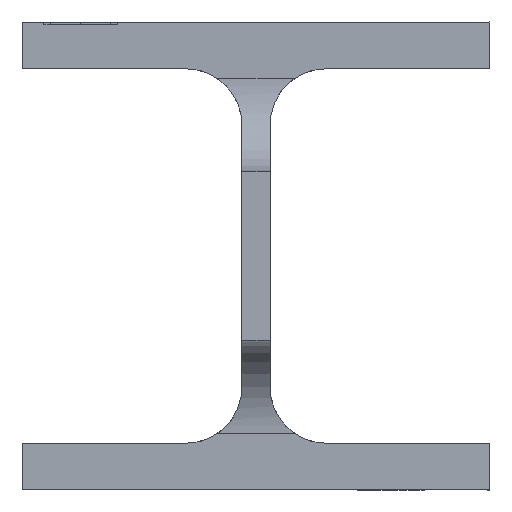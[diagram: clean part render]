
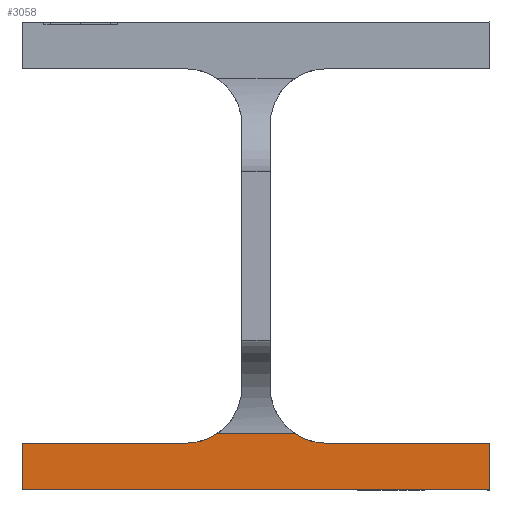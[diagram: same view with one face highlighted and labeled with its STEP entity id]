
A CAD part, left-side view. The second image highlights one B-rep face of the part: STEP entity #3058.
In plain terms, the highlighted planar face has unit normal (-1, 0, 0).
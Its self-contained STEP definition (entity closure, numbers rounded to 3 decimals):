
#80 = VERTEX_POINT ( 'NONE', #2623 ) ;
#127 = EDGE_CURVE ( 'NONE', #867, #2394, #690, .T. ) ;
#146 = ORIENTED_EDGE ( 'NONE', *, *, #890, .T. ) ;
#163 = ORIENTED_EDGE ( 'NONE', *, *, #1600, .T. ) ;
#252 = VECTOR ( 'NONE', #839, 1000. ) ;
#315 = VERTEX_POINT ( 'NONE', #2450 ) ;
#424 = ORIENTED_EDGE ( 'NONE', *, *, #2445, .T. ) ;
#447 = CARTESIAN_POINT ( 'NONE',  ( 6937., 1740., 2290. ) ) ;
#466 = ORIENTED_EDGE ( 'NONE', *, *, #1225, .T. ) ;
#614 = EDGE_CURVE ( 'NONE', #2905, #80, #1329, .T. ) ;
#690 = LINE ( 'NONE', #741, #3187 ) ;
#741 = CARTESIAN_POINT ( 'NONE',  ( 6937., 1740., 2300. ) ) ;
#743 = PLANE ( 'NONE',  #2261 ) ;
#839 = DIRECTION ( 'NONE',  ( 0., 1., 0. ) ) ;
#867 = VERTEX_POINT ( 'NONE', #2930 ) ;
#890 = EDGE_CURVE ( 'NONE', #2603, #867, #990, .T. ) ;
#990 = LINE ( 'NONE', #447, #2153 ) ;
#1017 = EDGE_CURVE ( 'NONE', #315, #2905, #2325, .T. ) ;
#1026 = DIRECTION ( 'NONE',  ( 0., 0., 1. ) ) ;
#1055 = ORIENTED_EDGE ( 'NONE', *, *, #1627, .F. ) ;
#1103 = CARTESIAN_POINT ( 'NONE',  ( 6937., 1805., 2312. ) ) ;
#1116 = CARTESIAN_POINT ( 'NONE',  ( 6937., 1775., 2300. ) ) ;
#1146 = CARTESIAN_POINT ( 'NONE',  ( 6937., 1775., 2312. ) ) ;
#1171 = CARTESIAN_POINT ( 'NONE',  ( 6937., 1840., 2290. ) ) ;
#1220 = CIRCLE ( 'NONE', #2486, 12. ) ;
#1225 = EDGE_CURVE ( 'NONE', #80, #1977, #3181, .T. ) ;
#1242 = DIRECTION ( 'NONE',  ( 0., 0., -1. ) ) ;
#1268 = CARTESIAN_POINT ( 'NONE',  ( 6937., 1840., 2290. ) ) ;
#1288 = CARTESIAN_POINT ( 'NONE',  ( 6937., 1740., 2290. ) ) ;
#1297 = DIRECTION ( 'NONE',  ( 0., 0., 1. ) ) ;
#1329 = LINE ( 'NONE', #2210, #252 ) ;
#1350 = VECTOR ( 'NONE', #1242, 1000. ) ;
#1370 = EDGE_LOOP ( 'NONE', ( #3333, #1890, #466, #163, #146, #1611, #424, #1055 ) ) ;
#1457 = AXIS2_PLACEMENT_3D ( 'NONE', #1103, #1612, #3213 ) ;
#1600 = EDGE_CURVE ( 'NONE', #1977, #2603, #3387, .T. ) ;
#1611 = ORIENTED_EDGE ( 'NONE', *, *, #127, .T. ) ;
#1612 = DIRECTION ( 'NONE',  ( 1., 0., 0. ) ) ;
#1627 = EDGE_CURVE ( 'NONE', #315, #1916, #3267, .T. ) ;
#1652 = DIRECTION ( 'NONE',  ( 0., -1., 0. ) ) ;
#1755 = CARTESIAN_POINT ( 'NONE',  ( 6937., 1781.633, 2302. ) ) ;
#1774 = DIRECTION ( 'NONE',  ( 0., 1., 0. ) ) ;
#1796 = CARTESIAN_POINT ( 'NONE',  ( 6937., 2000., 2290. ) ) ;
#1890 = ORIENTED_EDGE ( 'NONE', *, *, #614, .T. ) ;
#1916 = VERTEX_POINT ( 'NONE', #1755 ) ;
#1977 = VERTEX_POINT ( 'NONE', #1171 ) ;
#2051 = DIRECTION ( 'NONE',  ( 0., -1., 0. ) ) ;
#2097 = CARTESIAN_POINT ( 'NONE',  ( 6937., 1805., 2300. ) ) ;
#2153 = VECTOR ( 'NONE', #1026, 1000. ) ;
#2160 = VECTOR ( 'NONE', #2051, 1000. ) ;
#2210 = CARTESIAN_POINT ( 'NONE',  ( 6937., 1805., 2300. ) ) ;
#2222 = VECTOR ( 'NONE', #1652, 1000. ) ;
#2235 = DIRECTION ( 'NONE',  ( 1., 0., 0. ) ) ;
#2261 = AXIS2_PLACEMENT_3D ( 'NONE', #1796, #2889, #1297 ) ;
#2325 = CIRCLE ( 'NONE', #1457, 12. ) ;
#2394 = VERTEX_POINT ( 'NONE', #1116 ) ;
#2445 = EDGE_CURVE ( 'NONE', #2394, #1916, #1220, .T. ) ;
#2450 = CARTESIAN_POINT ( 'NONE',  ( 6937., 1798.367, 2302. ) ) ;
#2486 = AXIS2_PLACEMENT_3D ( 'NONE', #1146, #2235, #3315 ) ;
#2603 = VERTEX_POINT ( 'NONE', #1288 ) ;
#2604 = CARTESIAN_POINT ( 'NONE',  ( 6937., 1840., 2300. ) ) ;
#2623 = CARTESIAN_POINT ( 'NONE',  ( 6937., 1840., 2300. ) ) ;
#2698 = FACE_OUTER_BOUND ( 'NONE', #1370, .T. ) ;
#2889 = DIRECTION ( 'NONE',  ( -1., 0., 0. ) ) ;
#2905 = VERTEX_POINT ( 'NONE', #2097 ) ;
#2930 = CARTESIAN_POINT ( 'NONE',  ( 6937., 1740., 2300. ) ) ;
#3000 = CARTESIAN_POINT ( 'NONE',  ( 6937., 2000., 2302. ) ) ;
#3058 = ADVANCED_FACE ( 'NONE', ( #2698 ), #743, .T. ) ;
#3181 = LINE ( 'NONE', #2604, #1350 ) ;
#3187 = VECTOR ( 'NONE', #1774, 1000. ) ;
#3213 = DIRECTION ( 'NONE',  ( 0., 0., 1. ) ) ;
#3267 = LINE ( 'NONE', #3000, #2222 ) ;
#3315 = DIRECTION ( 'NONE',  ( 0., 0., 1. ) ) ;
#3333 = ORIENTED_EDGE ( 'NONE', *, *, #1017, .T. ) ;
#3387 = LINE ( 'NONE', #1268, #2160 ) ;
